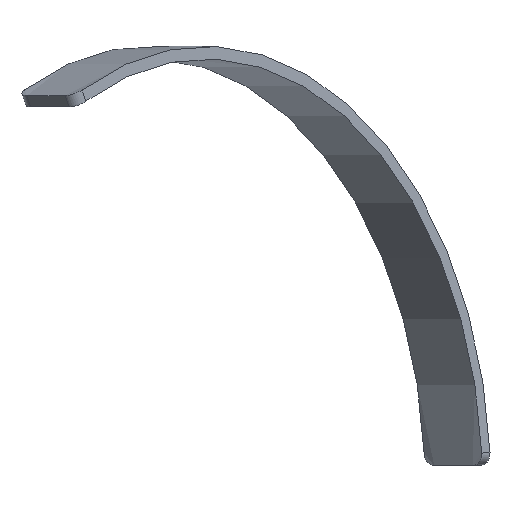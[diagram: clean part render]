
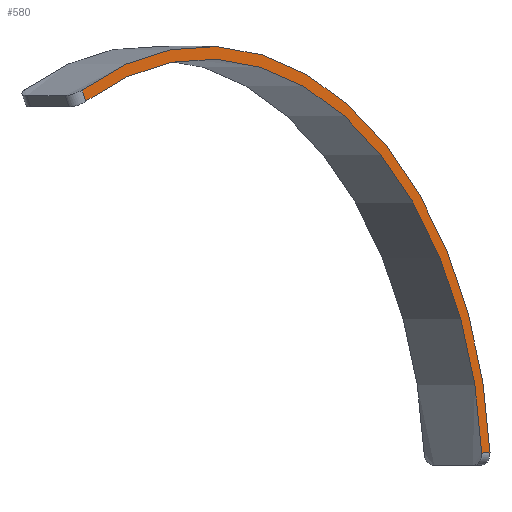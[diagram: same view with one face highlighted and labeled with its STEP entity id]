
A CAD part, left-side view. The second image highlights one B-rep face of the part: STEP entity #580.
In plain terms, the highlighted planar face has unit normal (-0.649, -0.76, 0).
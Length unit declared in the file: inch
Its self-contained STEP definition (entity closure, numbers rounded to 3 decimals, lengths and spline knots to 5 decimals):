
#48 = CARTESIAN_POINT ( 'NONE',  ( 89.01908, -79.97474, 0. ) ) ;
#52 = DIRECTION ( 'NONE',  ( 0.649, 0.76, 0. ) ) ;
#55 = CIRCLE ( 'NONE', #678, 34.695 ) ;
#65 = DIRECTION ( 'NONE',  ( 0.76, -0.649, 0.045 ) ) ;
#71 = CARTESIAN_POINT ( 'NONE',  ( 77.88865, -70.46845, 30.34958 ) ) ;
#102 = VERTEX_POINT ( 'NONE', #418 ) ;
#115 = DIRECTION ( 'NONE',  ( -0.76, 0.649, 0. ) ) ;
#135 = ORIENTED_EDGE ( 'NONE', *, *, #441, .T. ) ;
#142 = LINE ( 'NONE', #669, #403 ) ;
#172 = CARTESIAN_POINT ( 'NONE',  ( 89.01908, -79.97474, 0. ) ) ;
#178 = CIRCLE ( 'NONE', #368, 33.695 ) ;
#180 = CARTESIAN_POINT ( 'NONE',  ( 115.33041, -102.44674, 2.54288 ) ) ;
#196 = EDGE_LOOP ( 'NONE', ( #363, #135, #567, #591 ) ) ;
#218 = DIRECTION ( 'NONE',  ( -0.649, -0.76, 0. ) ) ;
#272 = CARTESIAN_POINT ( 'NONE',  ( 114.57043, -101.79766, 2.49835 ) ) ;
#275 = FACE_OUTER_BOUND ( 'NONE', #196, .T. ) ;
#363 = ORIENTED_EDGE ( 'NONE', *, *, #515, .T. ) ;
#368 = AXIS2_PLACEMENT_3D ( 'NONE', #370, #439, #502 ) ;
#370 = CARTESIAN_POINT ( 'NONE',  ( 89.01908, -79.97474, 0. ) ) ;
#399 = DIRECTION ( 'NONE',  ( 0.76, -0.649, 0. ) ) ;
#403 = VECTOR ( 'NONE', #487, 39.37008 ) ;
#418 = CARTESIAN_POINT ( 'NONE',  ( 77.53799, -70.16896, 31.23738 ) ) ;
#424 = VERTEX_POINT ( 'NONE', #180 ) ;
#429 = VERTEX_POINT ( 'NONE', #71 ) ;
#439 = DIRECTION ( 'NONE',  ( 0.649, 0.76, 0. ) ) ;
#441 = EDGE_CURVE ( 'NONE', #683, #424, #645, .T. ) ;
#450 = AXIS2_PLACEMENT_3D ( 'NONE', #172, #218, #399 ) ;
#487 = DIRECTION ( 'NONE',  ( 0.351, -0.299, -0.887 ) ) ;
#502 = DIRECTION ( 'NONE',  ( -0.76, 0.649, 0. ) ) ;
#505 = EDGE_CURVE ( 'NONE', #102, #429, #142, .T. ) ;
#515 = EDGE_CURVE ( 'NONE', #429, #683, #178, .T. ) ;
#563 = EDGE_CURVE ( 'NONE', #102, #424, #55, .T. ) ;
#567 = ORIENTED_EDGE ( 'NONE', *, *, #563, .F. ) ;
#580 = ADVANCED_FACE ( 'NONE', ( #275 ), #750, .T. ) ;
#590 = CARTESIAN_POINT ( 'NONE',  ( 88.98523, -79.94583, 0.99901 ) ) ;
#591 = ORIENTED_EDGE ( 'NONE', *, *, #505, .T. ) ;
#645 = LINE ( 'NONE', #590, #692 ) ;
#669 = CARTESIAN_POINT ( 'NONE',  ( 89.69389, -80.55108, 0.46095 ) ) ;
#678 = AXIS2_PLACEMENT_3D ( 'NONE', #48, #52, #115 ) ;
#683 = VERTEX_POINT ( 'NONE', #272 ) ;
#692 = VECTOR ( 'NONE', #65, 39.37008 ) ;
#750 = PLANE ( 'NONE',  #450 ) ;
